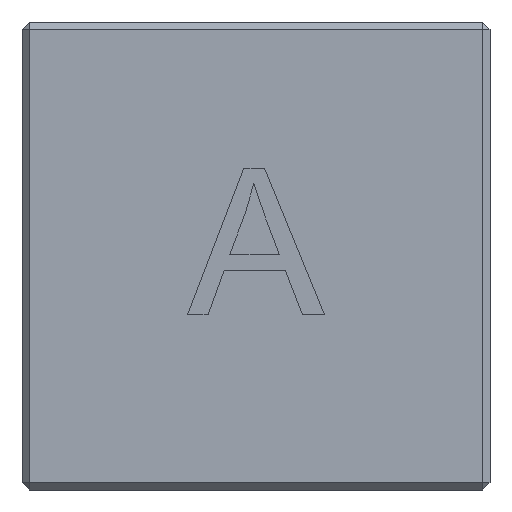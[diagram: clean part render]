
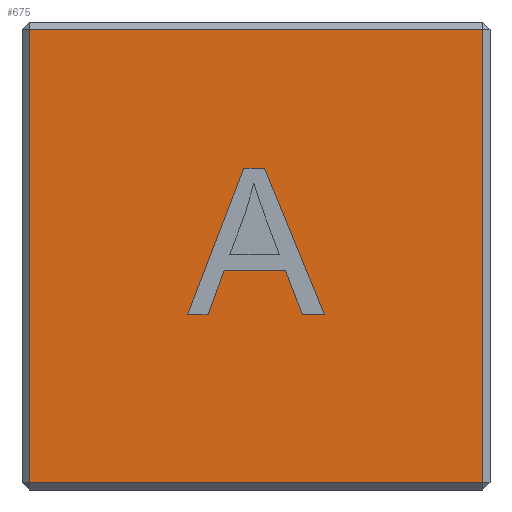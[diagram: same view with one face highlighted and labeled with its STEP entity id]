
A CAD part, front view. The second image highlights one B-rep face of the part: STEP entity #675.
In plain terms, the highlighted planar face has unit normal (0, -1, 0).
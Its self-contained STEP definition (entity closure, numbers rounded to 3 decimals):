
#675=ADVANCED_FACE('',(#889,#890),#745,.T.);
#745=PLANE('',#1728);
#805=B_SPLINE_CURVE_WITH_KNOTS('',3,(#2092,#2093,#2094,#2095),
 .UNSPECIFIED.,.F.,.F.,(4,4),(0.,1.),.UNSPECIFIED.);
#806=B_SPLINE_CURVE_WITH_KNOTS('',3,(#2098,#2099,#2100,#2101),
 .UNSPECIFIED.,.F.,.F.,(4,4),(0.,1.),.UNSPECIFIED.);
#807=B_SPLINE_CURVE_WITH_KNOTS('',3,(#2103,#2104,#2105,#2106),
 .UNSPECIFIED.,.F.,.F.,(4,4),(0.,1.),.UNSPECIFIED.);
#808=B_SPLINE_CURVE_WITH_KNOTS('',3,(#2108,#2109,#2110,#2111),
 .UNSPECIFIED.,.F.,.F.,(4,4),(0.,1.),.UNSPECIFIED.);
#809=B_SPLINE_CURVE_WITH_KNOTS('',3,(#2113,#2114,#2115,#2116),
 .UNSPECIFIED.,.F.,.F.,(4,4),(0.,1.),.UNSPECIFIED.);
#810=B_SPLINE_CURVE_WITH_KNOTS('',3,(#2118,#2119,#2120,#2121),
 .UNSPECIFIED.,.F.,.F.,(4,4),(0.,1.),.UNSPECIFIED.);
#811=B_SPLINE_CURVE_WITH_KNOTS('',3,(#2123,#2124,#2125,#2126),
 .UNSPECIFIED.,.F.,.F.,(4,4),(0.,1.),.UNSPECIFIED.);
#812=B_SPLINE_CURVE_WITH_KNOTS('',3,(#2128,#2129,#2130,#2131),
 .UNSPECIFIED.,.F.,.F.,(4,4),(0.,1.),.UNSPECIFIED.);
#889=FACE_BOUND('',#904,.T.);
#890=FACE_BOUND('',#905,.T.);
#904=EDGE_LOOP('',(#993,#994,#995,#996));
#905=EDGE_LOOP('',(#997,#998,#999,#1000,#1001,#1002,#1003,#1004));
#993=ORIENTED_EDGE('',*,*,#1401,.T.);
#994=ORIENTED_EDGE('',*,*,#1402,.T.);
#995=ORIENTED_EDGE('',*,*,#1403,.T.);
#996=ORIENTED_EDGE('',*,*,#1404,.T.);
#997=ORIENTED_EDGE('',*,*,#1405,.F.);
#998=ORIENTED_EDGE('',*,*,#1406,.F.);
#999=ORIENTED_EDGE('',*,*,#1407,.F.);
#1000=ORIENTED_EDGE('',*,*,#1408,.F.);
#1001=ORIENTED_EDGE('',*,*,#1409,.F.);
#1002=ORIENTED_EDGE('',*,*,#1410,.F.);
#1003=ORIENTED_EDGE('',*,*,#1411,.F.);
#1004=ORIENTED_EDGE('',*,*,#1412,.F.);
#1305=VERTEX_POINT('',#2085);
#1306=VERTEX_POINT('',#2086);
#1307=VERTEX_POINT('',#2088);
#1308=VERTEX_POINT('',#2090);
#1309=VERTEX_POINT('',#2096);
#1310=VERTEX_POINT('',#2097);
#1311=VERTEX_POINT('',#2102);
#1312=VERTEX_POINT('',#2107);
#1313=VERTEX_POINT('',#2112);
#1314=VERTEX_POINT('',#2117);
#1315=VERTEX_POINT('',#2122);
#1316=VERTEX_POINT('',#2127);
#1401=EDGE_CURVE('',#1305,#1306,#1550,.T.);
#1402=EDGE_CURVE('',#1306,#1307,#1551,.T.);
#1403=EDGE_CURVE('',#1307,#1308,#1552,.T.);
#1404=EDGE_CURVE('',#1308,#1305,#1553,.T.);
#1405=EDGE_CURVE('',#1309,#1310,#805,.T.);
#1406=EDGE_CURVE('',#1311,#1309,#806,.T.);
#1407=EDGE_CURVE('',#1312,#1311,#807,.T.);
#1408=EDGE_CURVE('',#1313,#1312,#808,.T.);
#1409=EDGE_CURVE('',#1314,#1313,#809,.T.);
#1410=EDGE_CURVE('',#1315,#1314,#810,.T.);
#1411=EDGE_CURVE('',#1316,#1315,#811,.T.);
#1412=EDGE_CURVE('',#1310,#1316,#812,.T.);
#1550=LINE('',#2084,#1634);
#1551=LINE('',#2087,#1635);
#1552=LINE('',#2089,#1636);
#1553=LINE('',#2091,#1637);
#1634=VECTOR('',#1795,1.);
#1635=VECTOR('',#1796,1.);
#1636=VECTOR('',#1797,1.);
#1637=VECTOR('',#1798,1.);
#1728=AXIS2_PLACEMENT_3D('',#2132,#1799,#1800);
#1795=DIRECTION('',(-1.,0.,0.));
#1796=DIRECTION('',(0.,0.,-1.));
#1797=DIRECTION('',(1.,0.,0.));
#1798=DIRECTION('',(0.,0.,1.));
#1799=DIRECTION('',(0.,-1.,0.));
#1800=DIRECTION('',(1.,0.,0.));
#2084=CARTESIAN_POINT('',(-16.,-17.5,31.5));
#2085=CARTESIAN_POINT('',(15.5,-17.5,31.5));
#2086=CARTESIAN_POINT('',(-15.5,-17.5,31.5));
#2087=CARTESIAN_POINT('',(-15.5,-17.5,32.));
#2088=CARTESIAN_POINT('',(-15.5,-17.5,0.5));
#2089=CARTESIAN_POINT('',(16.,-17.5,0.5));
#2090=CARTESIAN_POINT('',(15.5,-17.5,0.5));
#2091=CARTESIAN_POINT('',(15.5,-17.5,32.));
#2092=CARTESIAN_POINT('',(-4.679,-17.5,12.));
#2093=CARTESIAN_POINT('',(-4.211,-17.5,12.));
#2094=CARTESIAN_POINT('',(-3.743,-17.5,12.));
#2095=CARTESIAN_POINT('',(-3.274,-17.5,12.));
#2096=CARTESIAN_POINT('',(-4.679,-17.5,12.));
#2097=CARTESIAN_POINT('',(-3.274,-17.5,12.));
#2098=CARTESIAN_POINT('',(-0.839,-17.5,22.));
#2099=CARTESIAN_POINT('',(-2.119,-17.5,18.667));
#2100=CARTESIAN_POINT('',(-3.399,-17.5,15.333));
#2101=CARTESIAN_POINT('',(-4.679,-17.5,12.));
#2102=CARTESIAN_POINT('',(-0.839,-17.5,22.));
#2103=CARTESIAN_POINT('',(0.587,-17.5,22.));
#2104=CARTESIAN_POINT('',(0.111,-17.5,22.));
#2105=CARTESIAN_POINT('',(-0.364,-17.5,22.));
#2106=CARTESIAN_POINT('',(-0.839,-17.5,22.));
#2107=CARTESIAN_POINT('',(0.587,-17.5,22.));
#2108=CARTESIAN_POINT('',(4.679,-17.5,12.));
#2109=CARTESIAN_POINT('',(3.315,-17.5,15.333));
#2110=CARTESIAN_POINT('',(1.951,-17.5,18.667));
#2111=CARTESIAN_POINT('',(0.587,-17.5,22.));
#2112=CARTESIAN_POINT('',(4.679,-17.5,12.));
#2113=CARTESIAN_POINT('',(3.172,-17.5,12.));
#2114=CARTESIAN_POINT('',(3.674,-17.5,12.));
#2115=CARTESIAN_POINT('',(4.177,-17.5,12.));
#2116=CARTESIAN_POINT('',(4.679,-17.5,12.));
#2117=CARTESIAN_POINT('',(3.172,-17.5,12.));
#2118=CARTESIAN_POINT('',(2.005,-17.5,15.029));
#2119=CARTESIAN_POINT('',(2.394,-17.5,14.019));
#2120=CARTESIAN_POINT('',(2.783,-17.5,13.01));
#2121=CARTESIAN_POINT('',(3.172,-17.5,12.));
#2122=CARTESIAN_POINT('',(2.005,-17.5,15.029));
#2123=CARTESIAN_POINT('',(-2.176,-17.5,15.029));
#2124=CARTESIAN_POINT('',(-0.782,-17.5,15.029));
#2125=CARTESIAN_POINT('',(0.612,-17.5,15.029));
#2126=CARTESIAN_POINT('',(2.005,-17.5,15.029));
#2127=CARTESIAN_POINT('',(-2.176,-17.5,15.029));
#2128=CARTESIAN_POINT('',(-3.274,-17.5,12.));
#2129=CARTESIAN_POINT('',(-2.908,-17.5,13.01));
#2130=CARTESIAN_POINT('',(-2.542,-17.5,14.019));
#2131=CARTESIAN_POINT('',(-2.176,-17.5,15.029));
#2132=CARTESIAN_POINT('',(16.,-17.5,32.));
